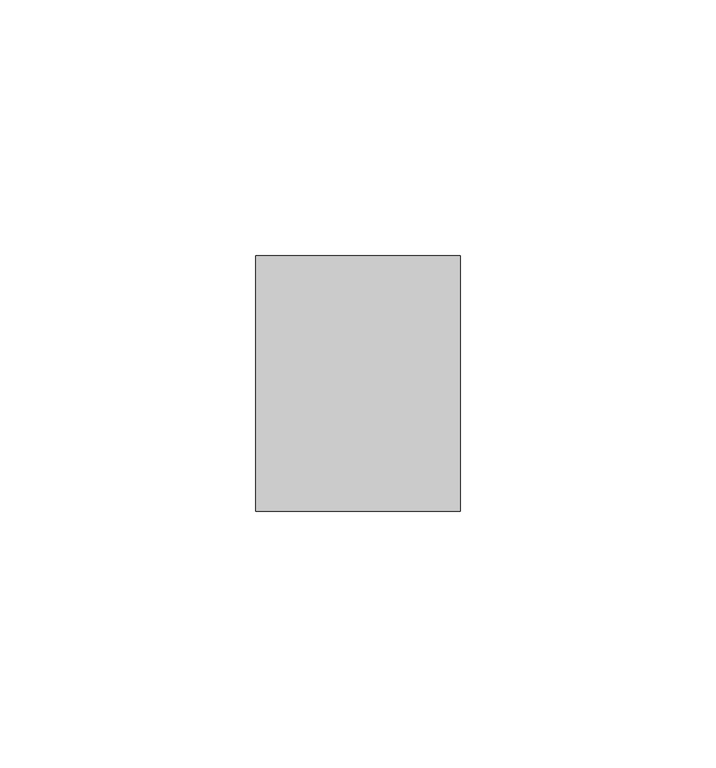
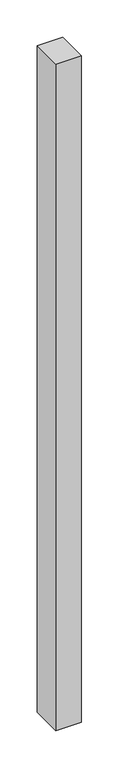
"""IFC4 building model written with IfcOpenShell, lengths in millimetres: member geometry, Прямоугольный импост : 40х50."""

from ifc_helpers import new_model, si_unit, frame, origin, place, context, project, spatial, polyline, outline, extrude, source, transform, mapped, element, save


def member_23c07796(model_context):
    return source(origin(), model_context, "Body", "SweptSolid", [
        extrude(outline(polyline([(0.0, 0.0), (0.0, -50.0), (-40.0, -50.0), (-40.0, 0.0), (0.0, 0.0)])), frame((0.0, 0.0, -1096.0), z_axis=(0.0, 0.0, 1.0), x_axis=(1.0, 0.0, 0.0)), (0.0, 0.0, 1.0), 1096.0),
    ])


if __name__ == "__main__":
    model = new_model("IFC4")
    model_context = context("Model", 3, world=origin())
    ifc_project = project(units=[si_unit("LENGTHUNIT", "METRE", prefix="MILLI")], contexts=[model_context])
    site = spatial("IfcSite", under=ifc_project)
    building = spatial("IfcBuilding", under=site)
    placement = place(None, origin())
    member_shape = member_23c07796(model_context)
    element("IfcMember", 1, ObjectType="Прямоугольный импост : 40х50", at=placement, inside=building, context=model_context, shape_type="MappedRepresentation", body=[
        mapped(member_shape, transform((0.0, 0.0, 0.0), x_axis=(1.0, 0.0, 0.0), y_axis=(0.0, 1.0, 0.0), z_axis=(0.0, 0.0, 1.0))),
    ])
    save(model, "model.ifc")
